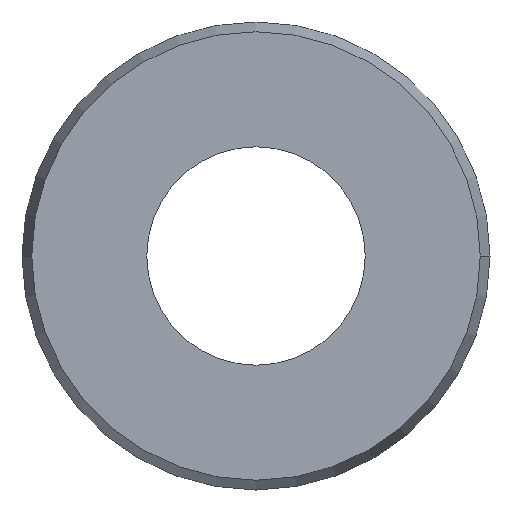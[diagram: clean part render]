
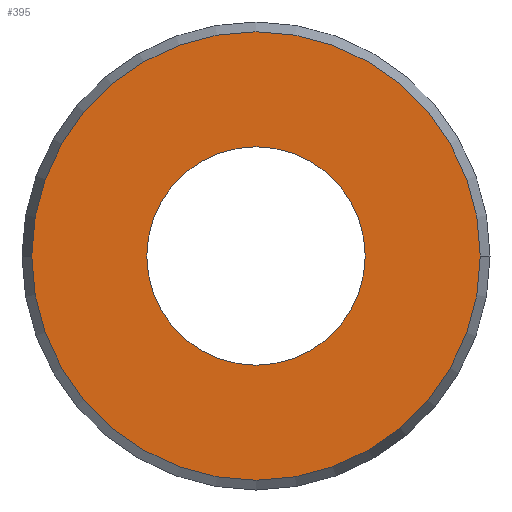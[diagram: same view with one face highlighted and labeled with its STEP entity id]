
A CAD part, left-side view. The second image highlights one B-rep face of the part: STEP entity #395.
In plain terms, the highlighted planar face has unit normal (-1, 0, 0).
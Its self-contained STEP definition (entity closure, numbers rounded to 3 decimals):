
#1=CARTESIAN_POINT('',(-3.,0.,0.));
#2=DIRECTION('',(1.,0.,0.));
#3=DIRECTION('',(0.,1.,0.));
#4=AXIS2_PLACEMENT_3D('',#1,#2,#3);
#14=CARTESIAN_POINT('',(-3.,0.,0.));
#15=DIRECTION('',(-1.,0.,0.));
#16=DIRECTION('',(0.,1.,0.));
#17=AXIS2_PLACEMENT_3D('',#14,#15,#16);
#117=CARTESIAN_POINT('',(-3.,0.,0.));
#118=DIRECTION('',(-1.,0.,0.));
#119=DIRECTION('',(0.,1.,0.));
#120=AXIS2_PLACEMENT_3D('',#117,#118,#119);
#122=CARTESIAN_POINT('',(-3.,0.,0.));
#123=DIRECTION('',(-1.,0.,0.));
#124=DIRECTION('',(0.,-1.,0.));
#125=AXIS2_PLACEMENT_3D('',#122,#123,#124);
#149=CARTESIAN_POINT('',(-3.,2.45,0.));
#151=VERTEX_POINT('',#149);
#157=CARTESIAN_POINT('',(-3.,-2.45,0.));
#159=VERTEX_POINT('',#157);
#181=CARTESIAN_POINT('',(-3.,5.032,0.));
#182=CARTESIAN_POINT('',(-3.,-5.032,0.));
#183=VERTEX_POINT('',#181);
#184=VERTEX_POINT('',#182);
#381=CARTESIAN_POINT('',(-3.,0.,0.));
#382=DIRECTION('',(1.,0.,0.));
#383=DIRECTION('',(0.,-1.,0.));
#384=AXIS2_PLACEMENT_3D('',#381,#382,#383);
#385=PLANE('',#384);
#387=ORIENTED_EDGE('',*,*,#386,.F.);
#388=ORIENTED_EDGE('',*,*,#371,.F.);
#389=EDGE_LOOP('',(#387,#388));
#390=FACE_OUTER_BOUND('',#389,.F.);
#391=ORIENTED_EDGE('',*,*,#196,.F.);
#392=ORIENTED_EDGE('',*,*,#214,.T.);
#393=EDGE_LOOP('',(#391,#392));
#394=FACE_BOUND('',#393,.F.);
#395=ADVANCED_FACE('',(#390,#394),#385,.F.);
#5=CIRCLE('',#4,2.45);
#18=CIRCLE('',#17,2.45);
#121=CIRCLE('',#120,5.032);
#126=CIRCLE('',#125,5.032);
#196=EDGE_CURVE('',#151,#159,#5,.T.);
#214=EDGE_CURVE('',#151,#159,#18,.T.);
#371=EDGE_CURVE('',#184,#183,#126,.T.);
#386=EDGE_CURVE('',#183,#184,#121,.T.);
